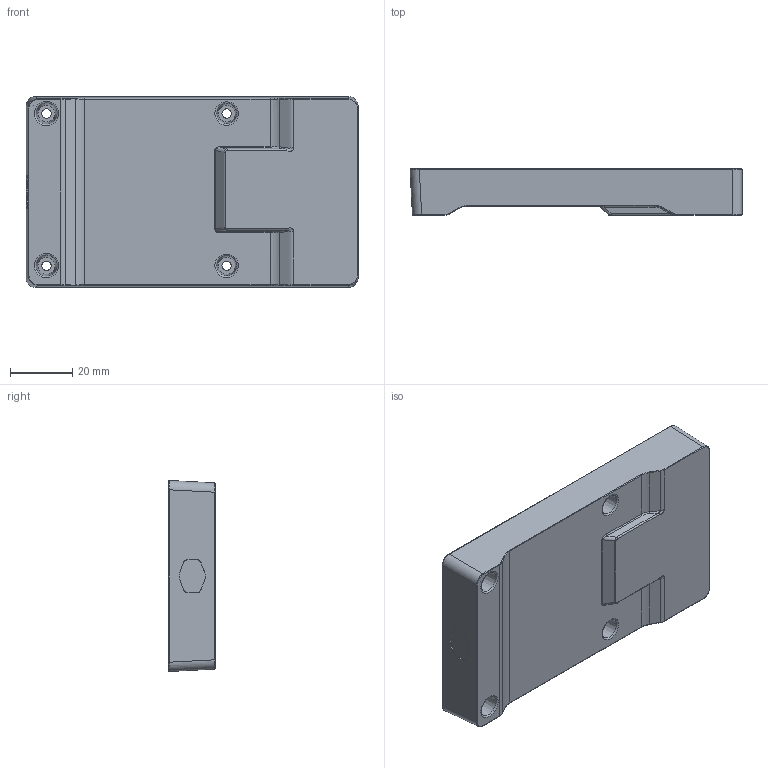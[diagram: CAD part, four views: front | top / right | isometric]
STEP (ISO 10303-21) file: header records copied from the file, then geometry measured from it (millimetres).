
FILE_DESCRIPTION(/* description */ (''),/* implementation_level */ '2;1');
FILE_NAME(/* name */ 'C:/Users/meono/Desktop/M.2-TYPE-C-NVME-BOX STP.step',/* time_stamp */ '2021-01-25T11:05:47+01:00',/* author */ (''),/* organization */ (''),/* preprocessor_version */ 'ST-DEVELOPER v18.1',/* originating_system */ 'Autodesk Translation Framework v9.7.1.1290',/* authorisation */ '');
FILE_SCHEMA (('AUTOMOTIVE_DESIGN { 1 0 10303 214 3 1 1 }'));
Products named in the file (6): M.2-TYPE-C-NVME-BOX; TYPE-C-MD2-NVME-PCB_ASM; TYPE-C-MD2-NVME-PCB; K3D-DX07S024JJ2-V1_JAE_PROPRIET; NXSM0-S67XX-XX40_3D_2015-07-10_; SSD_2280_46_30
Assembly tree (5 placements, depth 3):
  M.2-TYPE-C-NVME-BOX
    TYPE-C-MD2-NVME-PCB_ASM
      TYPE-C-MD2-NVME-PCB
      K3D-DX07S024JJ2-V1_JAE_PROPRIET
      NXSM0-S67XX-XX40_3D_2015-07-10_
      SSD_2280_46_30
Bounding box: 106.89 x 15 x 61.48 mm (x, y, z)
Volume: 25260.6 mm3; surface area: 35779.8 mm2
Topology: 5 solids, 5 shells, 3558 faces, 9587 edges, 6301 vertices
Faces by surface type: plane 2465, cylinder 922, bspline 100, cone 40, torus 16, sphere 15
Full cylindrical faces by diameter (mm): 0.55 x1, 0.8 x1, 0.95 x1, 1.45 x1, 2.2 x4, 3 x8
Entity records: 118420 total; most frequent: CARTESIAN_POINT 27685, ORIENTED_EDGE 19140, DIRECTION 18285, EDGE_CURVE 9570, LINE 7365, VECTOR 7365, VERTEX_POINT 6301, AXIS2_PLACEMENT_3D 5460
